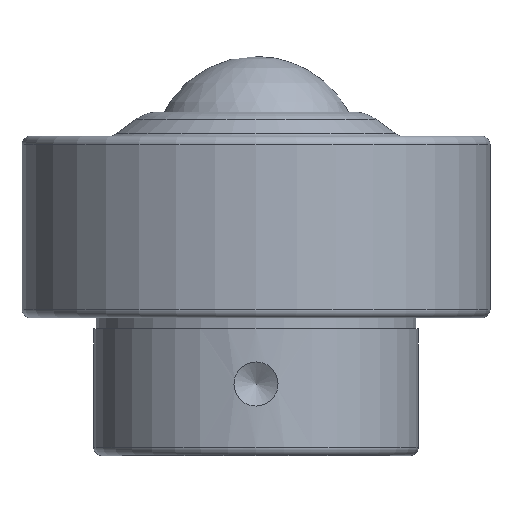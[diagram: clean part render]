
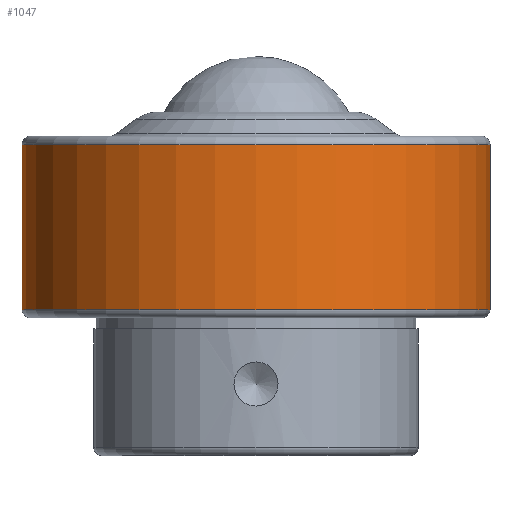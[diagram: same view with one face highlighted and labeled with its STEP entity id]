
A CAD part, front view. The second image highlights one B-rep face of the part: STEP entity #1047.
In plain terms, the highlighted cylindrical face has radius 42.5 mm (diameter 85 mm), a full revolution.
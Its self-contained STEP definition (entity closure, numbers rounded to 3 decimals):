
#52=FACE_BOUND('',#253,.T.);
#87=CIRCLE('',#1136,42.5);
#88=CIRCLE('',#1138,42.5);
#109=CYLINDRICAL_SURFACE('',#1137,42.5);
#168=FACE_OUTER_BOUND('',#252,.T.);
#252=EDGE_LOOP('',(#851));
#253=EDGE_LOOP('',(#852));
#524=VERTEX_POINT('',#1731);
#525=VERTEX_POINT('',#1734);
#641=EDGE_CURVE('',#524,#524,#87,.T.);
#642=EDGE_CURVE('',#525,#525,#88,.T.);
#851=ORIENTED_EDGE('',*,*,#642,.F.);
#852=ORIENTED_EDGE('',*,*,#641,.T.);
#1047=ADVANCED_FACE('',(#168,#52),#109,.T.);
#1136=AXIS2_PLACEMENT_3D('',#1732,#1396,#1397);
#1137=AXIS2_PLACEMENT_3D('',#1733,#1398,#1399);
#1138=AXIS2_PLACEMENT_3D('',#1735,#1400,#1401);
#1396=DIRECTION('center_axis',(0.,0.,1.));
#1397=DIRECTION('ref_axis',(0.,-1.,0.));
#1398=DIRECTION('center_axis',(0.,0.,1.));
#1399=DIRECTION('ref_axis',(0.,-1.,0.));
#1400=DIRECTION('center_axis',(0.,0.,1.));
#1401=DIRECTION('ref_axis',(0.,-1.,0.));
#1731=CARTESIAN_POINT('',(0.,-42.5,1.5));
#1732=CARTESIAN_POINT('Origin',(0.,0.,1.5));
#1733=CARTESIAN_POINT('Origin',(0.,0.,16.5));
#1734=CARTESIAN_POINT('',(0.,-42.5,31.5));
#1735=CARTESIAN_POINT('Origin',(0.,0.,31.5));
